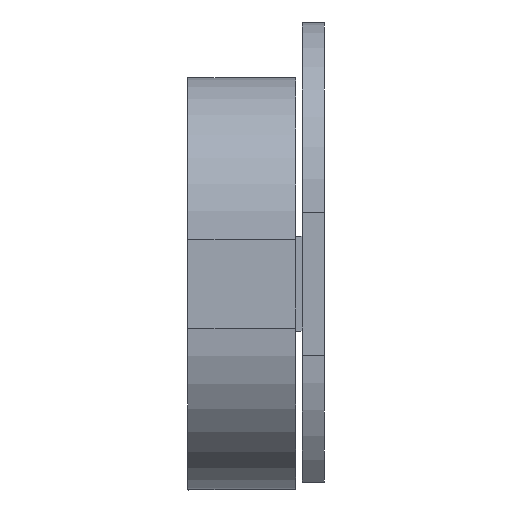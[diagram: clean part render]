
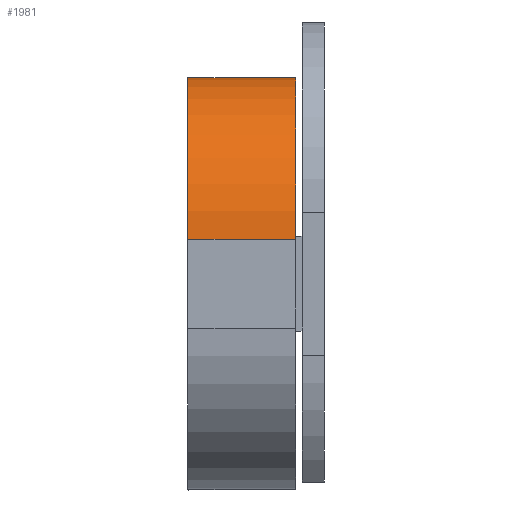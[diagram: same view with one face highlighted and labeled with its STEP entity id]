
A CAD part, front view. The second image highlights one B-rep face of the part: STEP entity #1981.
In plain terms, the highlighted cylindrical face has radius 5.1 mm (diameter 10.2 mm), a partial arc.
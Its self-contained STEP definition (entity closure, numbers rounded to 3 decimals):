
#1115 = PLANE('',#1116);
#1116 = AXIS2_PLACEMENT_3D('',#1117,#1118,#1119);
#1117 = CARTESIAN_POINT('',(-40.9,-19.,6.5));
#1118 = DIRECTION('',(-1.,-0.,0.));
#1119 = DIRECTION('',(0.,-0.,1.));
#1484 = VERTEX_POINT('',#1485);
#1485 = CARTESIAN_POINT('',(-40.9,-13.9,6.5));
#1501 = PLANE('',#1502);
#1502 = AXIS2_PLACEMENT_3D('',#1503,#1504,#1505);
#1503 = CARTESIAN_POINT('',(-40.9,-19.,6.5));
#1504 = DIRECTION('',(0.,-0.,-1.));
#1505 = DIRECTION('',(1.,-0.,0.));
#1661 = VERTEX_POINT('',#1662);
#1662 = CARTESIAN_POINT('',(-40.9,-19.,1.4));
#1676 = PLANE('',#1677);
#1677 = AXIS2_PLACEMENT_3D('',#1678,#1679,#1680);
#1678 = CARTESIAN_POINT('',(-40.9,-19.,6.5));
#1679 = DIRECTION('',(-0.,1.,-0.));
#1680 = DIRECTION('',(1.,-0.,0.));
#1688 = EDGE_CURVE('',#1484,#1661,#1689,.T.);
#1689 = SURFACE_CURVE('',#1690,(#1695,#1706),.PCURVE_S1.);
#1690 = CIRCLE('',#1691,5.1);
#1691 = AXIS2_PLACEMENT_3D('',#1692,#1693,#1694);
#1692 = CARTESIAN_POINT('',(-40.9,-13.9,1.4));
#1693 = DIRECTION('',(1.,0.,0.));
#1694 = DIRECTION('',(0.,-1.,-0.));
#1695 = PCURVE('',#1115,#1696);
#1696 = DEFINITIONAL_REPRESENTATION('',(#1697),#1705);
#1697 = ( BOUNDED_CURVE() B_SPLINE_CURVE(2,(#1698,#1699,#1700,#1701,
#1702,#1703,#1704),.UNSPECIFIED.,.T.,.F.) B_SPLINE_CURVE_WITH_KNOTS((1,2
    ,2,2,2,1),(-2.094,0.,2.094,4.189,
6.283,8.378),.UNSPECIFIED.) CURVE() 
GEOMETRIC_REPRESENTATION_ITEM() RATIONAL_B_SPLINE_CURVE((1.,0.5,1.,0.5,
1.,0.5,1.)) REPRESENTATION_ITEM('') );
#1698 = CARTESIAN_POINT('',(-5.1,0.));
#1699 = CARTESIAN_POINT('',(-13.933,0.));
#1700 = CARTESIAN_POINT('',(-9.517,7.65));
#1701 = CARTESIAN_POINT('',(-5.1,15.3));
#1702 = CARTESIAN_POINT('',(-0.683,7.65));
#1703 = CARTESIAN_POINT('',(3.733,0.));
#1704 = CARTESIAN_POINT('',(-5.1,0.));
#1705 = ( GEOMETRIC_REPRESENTATION_CONTEXT(2) 
PARAMETRIC_REPRESENTATION_CONTEXT() REPRESENTATION_CONTEXT('2D SPACE',''
  ) );
#1706 = PCURVE('',#1707,#1712);
#1707 = CYLINDRICAL_SURFACE('',#1708,5.1);
#1708 = AXIS2_PLACEMENT_3D('',#1709,#1710,#1711);
#1709 = CARTESIAN_POINT('',(-40.9,-13.9,1.4));
#1710 = DIRECTION('',(-1.,-0.,0.));
#1711 = DIRECTION('',(0.,-0.,1.));
#1712 = DEFINITIONAL_REPRESENTATION('',(#1713),#1717);
#1713 = LINE('',#1714,#1715);
#1714 = CARTESIAN_POINT('',(10.996,0.));
#1715 = VECTOR('',#1716,1.);
#1716 = DIRECTION('',(-1.,0.));
#1717 = ( GEOMETRIC_REPRESENTATION_CONTEXT(2) 
PARAMETRIC_REPRESENTATION_CONTEXT() REPRESENTATION_CONTEXT('2D SPACE',''
  ) );
#1829 = VERTEX_POINT('',#1830);
#1830 = CARTESIAN_POINT('',(-44.3,-13.9,6.5));
#1846 = PLANE('',#1847);
#1847 = AXIS2_PLACEMENT_3D('',#1848,#1849,#1850);
#1848 = CARTESIAN_POINT('',(-44.3,-19.,6.5));
#1849 = DIRECTION('',(-1.,-0.,0.));
#1850 = DIRECTION('',(0.,-0.,1.));
#1858 = EDGE_CURVE('',#1484,#1829,#1859,.T.);
#1859 = SURFACE_CURVE('',#1860,(#1864,#1871),.PCURVE_S1.);
#1860 = LINE('',#1861,#1862);
#1861 = CARTESIAN_POINT('',(-40.9,-13.9,6.5));
#1862 = VECTOR('',#1863,1.);
#1863 = DIRECTION('',(-1.,-0.,0.));
#1864 = PCURVE('',#1501,#1865);
#1865 = DEFINITIONAL_REPRESENTATION('',(#1866),#1870);
#1866 = LINE('',#1867,#1868);
#1867 = CARTESIAN_POINT('',(0.,-5.1));
#1868 = VECTOR('',#1869,1.);
#1869 = DIRECTION('',(-1.,-0.));
#1870 = ( GEOMETRIC_REPRESENTATION_CONTEXT(2) 
PARAMETRIC_REPRESENTATION_CONTEXT() REPRESENTATION_CONTEXT('2D SPACE',''
  ) );
#1871 = PCURVE('',#1707,#1872);
#1872 = DEFINITIONAL_REPRESENTATION('',(#1873),#1877);
#1873 = LINE('',#1874,#1875);
#1874 = CARTESIAN_POINT('',(6.283,0.));
#1875 = VECTOR('',#1876,1.);
#1876 = DIRECTION('',(-0.,1.));
#1877 = ( GEOMETRIC_REPRESENTATION_CONTEXT(2) 
PARAMETRIC_REPRESENTATION_CONTEXT() REPRESENTATION_CONTEXT('2D SPACE',''
  ) );
#1981 = ADVANCED_FACE('',(#1982),#1707,.T.);
#1982 = FACE_BOUND('',#1983,.T.);
#1983 = EDGE_LOOP('',(#1984,#1985,#2013,#2034));
#1984 = ORIENTED_EDGE('',*,*,#1858,.T.);
#1985 = ORIENTED_EDGE('',*,*,#1986,.T.);
#1986 = EDGE_CURVE('',#1829,#1987,#1989,.T.);
#1987 = VERTEX_POINT('',#1988);
#1988 = CARTESIAN_POINT('',(-44.3,-19.,1.4));
#1989 = SURFACE_CURVE('',#1990,(#1995,#2002),.PCURVE_S1.);
#1990 = CIRCLE('',#1991,5.1);
#1991 = AXIS2_PLACEMENT_3D('',#1992,#1993,#1994);
#1992 = CARTESIAN_POINT('',(-44.3,-13.9,1.4));
#1993 = DIRECTION('',(1.,0.,0.));
#1994 = DIRECTION('',(0.,-1.,-0.));
#1995 = PCURVE('',#1707,#1996);
#1996 = DEFINITIONAL_REPRESENTATION('',(#1997),#2001);
#1997 = LINE('',#1998,#1999);
#1998 = CARTESIAN_POINT('',(10.996,3.4));
#1999 = VECTOR('',#2000,1.);
#2000 = DIRECTION('',(-1.,0.));
#2001 = ( GEOMETRIC_REPRESENTATION_CONTEXT(2) 
PARAMETRIC_REPRESENTATION_CONTEXT() REPRESENTATION_CONTEXT('2D SPACE',''
  ) );
#2002 = PCURVE('',#1846,#2003);
#2003 = DEFINITIONAL_REPRESENTATION('',(#2004),#2012);
#2004 = ( BOUNDED_CURVE() B_SPLINE_CURVE(2,(#2005,#2006,#2007,#2008,
#2009,#2010,#2011),.UNSPECIFIED.,.T.,.F.) B_SPLINE_CURVE_WITH_KNOTS((1,2
    ,2,2,2,1),(-2.094,0.,2.094,4.189,
6.283,8.378),.UNSPECIFIED.) CURVE() 
GEOMETRIC_REPRESENTATION_ITEM() RATIONAL_B_SPLINE_CURVE((1.,0.5,1.,0.5,
1.,0.5,1.)) REPRESENTATION_ITEM('') );
#2005 = CARTESIAN_POINT('',(-5.1,0.));
#2006 = CARTESIAN_POINT('',(-13.933,0.));
#2007 = CARTESIAN_POINT('',(-9.517,7.65));
#2008 = CARTESIAN_POINT('',(-5.1,15.3));
#2009 = CARTESIAN_POINT('',(-0.683,7.65));
#2010 = CARTESIAN_POINT('',(3.733,0.));
#2011 = CARTESIAN_POINT('',(-5.1,0.));
#2012 = ( GEOMETRIC_REPRESENTATION_CONTEXT(2) 
PARAMETRIC_REPRESENTATION_CONTEXT() REPRESENTATION_CONTEXT('2D SPACE',''
  ) );
#2013 = ORIENTED_EDGE('',*,*,#2014,.F.);
#2014 = EDGE_CURVE('',#1661,#1987,#2015,.T.);
#2015 = SURFACE_CURVE('',#2016,(#2020,#2027),.PCURVE_S1.);
#2016 = LINE('',#2017,#2018);
#2017 = CARTESIAN_POINT('',(-40.9,-19.,1.4));
#2018 = VECTOR('',#2019,1.);
#2019 = DIRECTION('',(-1.,-0.,0.));
#2020 = PCURVE('',#1707,#2021);
#2021 = DEFINITIONAL_REPRESENTATION('',(#2022),#2026);
#2022 = LINE('',#2023,#2024);
#2023 = CARTESIAN_POINT('',(4.712,0.));
#2024 = VECTOR('',#2025,1.);
#2025 = DIRECTION('',(-0.,1.));
#2026 = ( GEOMETRIC_REPRESENTATION_CONTEXT(2) 
PARAMETRIC_REPRESENTATION_CONTEXT() REPRESENTATION_CONTEXT('2D SPACE',''
  ) );
#2027 = PCURVE('',#1676,#2028);
#2028 = DEFINITIONAL_REPRESENTATION('',(#2029),#2033);
#2029 = LINE('',#2030,#2031);
#2030 = CARTESIAN_POINT('',(0.,5.1));
#2031 = VECTOR('',#2032,1.);
#2032 = DIRECTION('',(-1.,0.));
#2033 = ( GEOMETRIC_REPRESENTATION_CONTEXT(2) 
PARAMETRIC_REPRESENTATION_CONTEXT() REPRESENTATION_CONTEXT('2D SPACE',''
  ) );
#2034 = ORIENTED_EDGE('',*,*,#1688,.F.);
